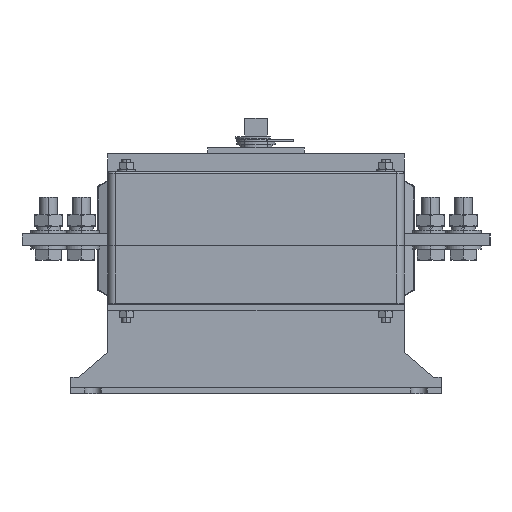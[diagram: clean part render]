
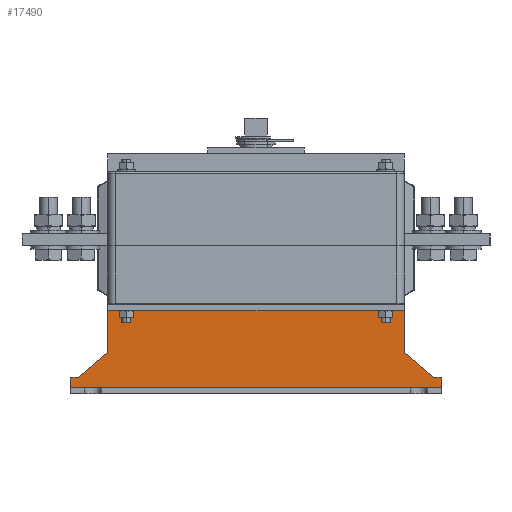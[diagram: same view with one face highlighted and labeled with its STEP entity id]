
A CAD part, left-side view. The second image highlights one B-rep face of the part: STEP entity #17490.
In plain terms, the highlighted planar face has unit normal (-1, 0, 0) as drawn and (0, 0, 1) by its records, which use the part's own axes.
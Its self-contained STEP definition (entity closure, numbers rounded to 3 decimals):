
#16973=DIRECTION('',(0.,-1.,0.));
#16974=VECTOR('',#16973,7.);
#16975=CARTESIAN_POINT('',(-125.,11.,-11.));
#16976=LINE('',#16975,#16974);
#16981=DIRECTION('',(-1.,0.,0.));
#16982=VECTOR('',#16981,5.);
#16983=CARTESIAN_POINT('',(-120.,11.,-11.));
#16984=LINE('',#16983,#16982);
#16989=DIRECTION('',(1.,0.,0.));
#16990=VECTOR('',#16989,200.);
#16991=CARTESIAN_POINT('',(-100.,56.,-11.));
#16992=LINE('',#16991,#16990);
#17006=DIRECTION('',(0.,-1.,0.));
#17007=VECTOR('',#17006,7.);
#17008=CARTESIAN_POINT('',(125.,11.,-11.));
#17009=LINE('',#17008,#17007);
#17137=DIRECTION('',(0.,1.,0.));
#17138=VECTOR('',#17137,28.);
#17139=CARTESIAN_POINT('',(100.,28.,-11.));
#17140=LINE('',#17139,#17138);
#17202=DIRECTION('',(0.,1.,0.));
#17203=VECTOR('',#17202,28.);
#17204=CARTESIAN_POINT('',(-100.,28.,-11.));
#17205=LINE('',#17204,#17203);
#17206=DIRECTION('',(-0.762,-0.648,0.));
#17207=VECTOR('',#17206,26.249);
#17208=CARTESIAN_POINT('',(-100.,28.,-11.));
#17209=LINE('',#17208,#17207);
#17214=DIRECTION('',(-0.762,0.648,0.));
#17215=VECTOR('',#17214,26.249);
#17216=CARTESIAN_POINT('',(120.,11.,-11.));
#17217=LINE('',#17216,#17215);
#17222=DIRECTION('',(-1.,0.,0.));
#17223=VECTOR('',#17222,5.);
#17224=CARTESIAN_POINT('',(125.,11.,-11.));
#17225=LINE('',#17224,#17223);
#17256=DIRECTION('',(1.,0.,0.));
#17257=VECTOR('',#17256,250.);
#17258=CARTESIAN_POINT('',(-125.,4.,-11.));
#17259=LINE('',#17258,#17257);
#17297=CARTESIAN_POINT('',(125.,4.,-11.));
#17299=VERTEX_POINT('',#17297);
#17300=CARTESIAN_POINT('',(125.,11.,-11.));
#17301=VERTEX_POINT('',#17300);
#17302=CARTESIAN_POINT('',(120.,11.,-11.));
#17303=VERTEX_POINT('',#17302);
#17304=CARTESIAN_POINT('',(100.,28.,-11.));
#17305=VERTEX_POINT('',#17304);
#17306=CARTESIAN_POINT('',(100.,56.,-11.));
#17307=VERTEX_POINT('',#17306);
#17308=CARTESIAN_POINT('',(-100.,56.,-11.));
#17309=VERTEX_POINT('',#17308);
#17310=CARTESIAN_POINT('',(-100.,28.,-11.));
#17311=VERTEX_POINT('',#17310);
#17312=CARTESIAN_POINT('',(-120.,11.,-11.));
#17313=VERTEX_POINT('',#17312);
#17314=CARTESIAN_POINT('',(-125.,11.,-11.));
#17315=VERTEX_POINT('',#17314);
#17317=CARTESIAN_POINT('',(-125.,4.,-11.));
#17319=VERTEX_POINT('',#17317);
#17465=CARTESIAN_POINT('',(-125.,56.,-11.));
#17466=DIRECTION('',(0.,0.,-1.));
#17467=DIRECTION('',(0.,-1.,0.));
#17468=AXIS2_PLACEMENT_3D('',#17465,#17466,#17467);
#17469=PLANE('',#17468);
#17471=ORIENTED_EDGE('',*,*,#17470,.T.);
#17473=ORIENTED_EDGE('',*,*,#17472,.F.);
#17474=ORIENTED_EDGE('',*,*,#17440,.F.);
#17475=ORIENTED_EDGE('',*,*,#17456,.F.);
#17477=ORIENTED_EDGE('',*,*,#17476,.F.);
#17479=ORIENTED_EDGE('',*,*,#17478,.T.);
#17481=ORIENTED_EDGE('',*,*,#17480,.T.);
#17483=ORIENTED_EDGE('',*,*,#17482,.F.);
#17485=ORIENTED_EDGE('',*,*,#17484,.F.);
#17487=ORIENTED_EDGE('',*,*,#17486,.F.);
#17488=EDGE_LOOP('',(#17471,#17473,#17474,#17475,#17477,#17479,#17481,#17483,
#17485,#17487));
#17489=FACE_OUTER_BOUND('',#17488,.F.);
#17490=ADVANCED_FACE('',(#17489),#17469,.F.);
#17440=EDGE_CURVE('',#17315,#17319,#16976,.T.);
#17456=EDGE_CURVE('',#17313,#17315,#16984,.T.);
#17470=EDGE_CURVE('',#17301,#17299,#17009,.T.);
#17472=EDGE_CURVE('',#17319,#17299,#17259,.T.);
#17476=EDGE_CURVE('',#17311,#17313,#17209,.T.);
#17478=EDGE_CURVE('',#17311,#17309,#17205,.T.);
#17480=EDGE_CURVE('',#17309,#17307,#16992,.T.);
#17482=EDGE_CURVE('',#17305,#17307,#17140,.T.);
#17484=EDGE_CURVE('',#17303,#17305,#17217,.T.);
#17486=EDGE_CURVE('',#17301,#17303,#17225,.T.);
